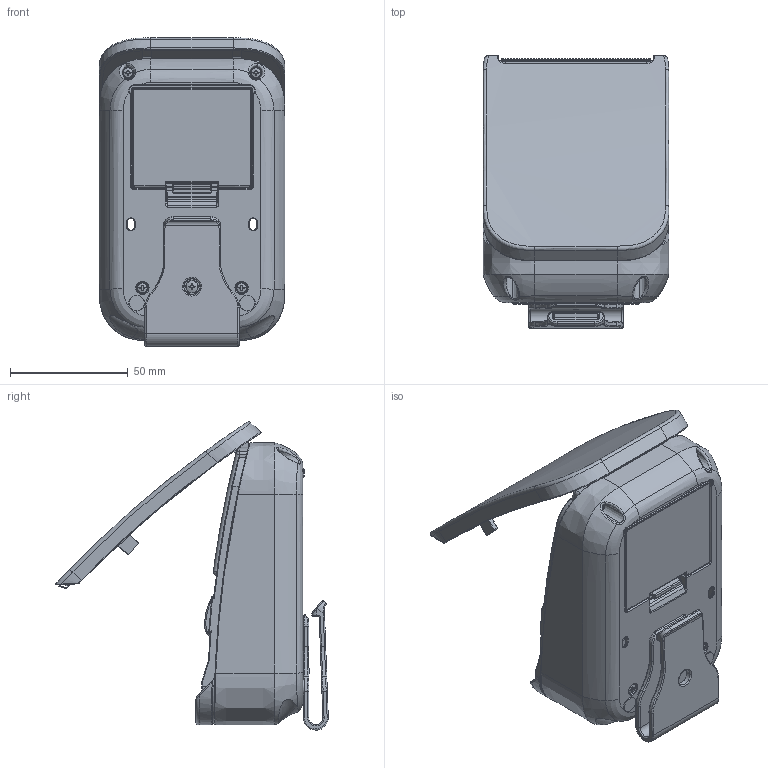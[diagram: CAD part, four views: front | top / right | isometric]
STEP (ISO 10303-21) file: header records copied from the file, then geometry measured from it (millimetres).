
FILE_DESCRIPTION((''),'2;1');
FILE_NAME('TM-P20II_OPEN_250227_3','2025-02-26T14:44:42',('5005293'),(''),'CREO PARAMETRIC BY PTC INC, 2021184','CREO PARAMETRIC BY PTC INC, 2021184','');
FILE_SCHEMA(('AUTOMOTIVE_DESIGN { 1 0 10303 214 1 1 1 1 }'));
Products named in the file (1): TM-P20II_OPEN_250227_3
Bounding box: 79 x 115.93 x 131.12 mm (x, y, z)
Surface area: 124995.2 mm2 (no closed solid volume)
Topology: 0 solids, 74 shells, 3973 faces, 12606 edges, 8547 vertices
Faces by surface type: plane 1674, cylinder 1436, bspline 393, torus 217, cone 114, extrusion 85, sphere 54
Entity records: 192868 total; most frequent: CARTESIAN_POINT 84908, ORIENTED_EDGE 22393, DIRECTION 21350, EDGE_CURVE 12604, VERTEX_POINT 8547, VECTOR 7236, LINE 7151, AXIS2_PLACEMENT_3D 7057
